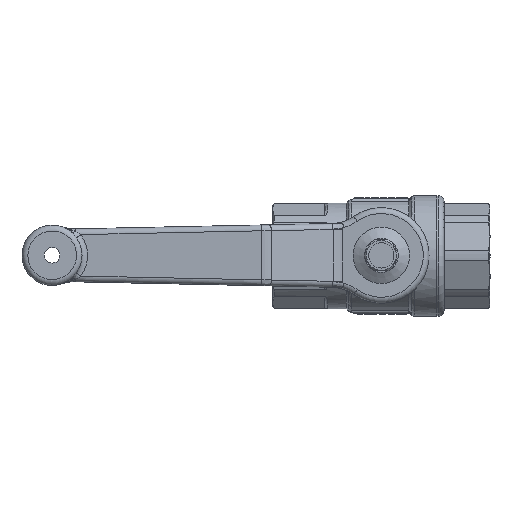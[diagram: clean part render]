
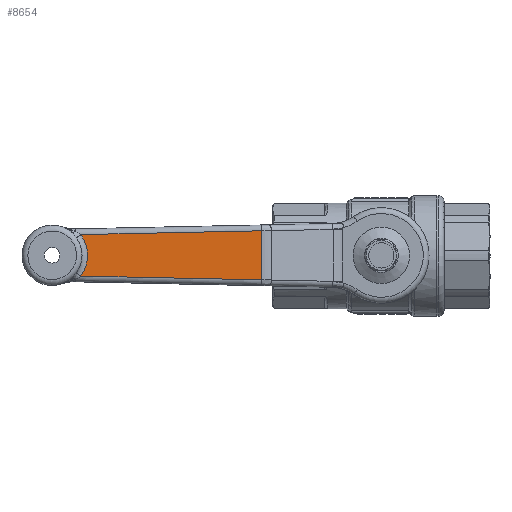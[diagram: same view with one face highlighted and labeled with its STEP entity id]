
A CAD part, top view. The second image highlights one B-rep face of the part: STEP entity #8654.
In plain terms, the highlighted planar face has unit normal (0, 0, 1).
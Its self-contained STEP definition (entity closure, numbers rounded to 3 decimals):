
#1095=LINE('',#17088,#1662);
#1098=LINE('',#17296,#1665);
#1099=LINE('',#17302,#1666);
#1662=VECTOR('',#11519,12.592);
#1665=VECTOR('',#11550,46.43);
#1666=VECTOR('',#11559,46.43);
#1909=PLANE('',#9446);
#2666=FACE_OUTER_BOUND('',#3309,.T.);
#3309=EDGE_LOOP('',(#7942,#7943,#7944,#7945));
#3650=CIRCLE('',#9435,9.078);
#4450=VERTEX_POINT('',#17059);
#4451=VERTEX_POINT('',#17082);
#4460=VERTEX_POINT('',#17181);
#4462=VERTEX_POINT('',#17193);
#5618=EDGE_CURVE('',#4450,#4451,#1095,.T.);
#5631=EDGE_CURVE('',#4462,#4460,#3650,.T.);
#5643=EDGE_CURVE('',#4460,#4450,#1098,.T.);
#5646=EDGE_CURVE('',#4451,#4462,#1099,.T.);
#7942=ORIENTED_EDGE('',*,*,#5618,.F.);
#7943=ORIENTED_EDGE('',*,*,#5643,.F.);
#7944=ORIENTED_EDGE('',*,*,#5631,.F.);
#7945=ORIENTED_EDGE('',*,*,#5646,.F.);
#8654=ADVANCED_FACE('',(#2666),#1909,.T.);
#9435=AXIS2_PLACEMENT_3D('',#17195,#11534,#11535);
#9446=AXIS2_PLACEMENT_3D('',#17301,#11557,#11558);
#11519=DIRECTION('',(0.,1.,0.));
#11534=DIRECTION('center_axis',(0.,0.,1.));
#11535=DIRECTION('ref_axis',(-0.992,0.128,0.));
#11550=DIRECTION('',(-1.,-0.021,0.));
#11557=DIRECTION('center_axis',(0.,0.,1.));
#11558=DIRECTION('ref_axis',(1.,0.,0.));
#11559=DIRECTION('',(1.,-0.021,0.));
#17059=CARTESIAN_POINT('',(30.726,-6.296,27.5));
#17082=CARTESIAN_POINT('',(30.726,6.296,27.5));
#17088=CARTESIAN_POINT('',(30.726,0.,27.5));
#17181=CARTESIAN_POINT('',(77.147,-5.324,27.5));
#17193=CARTESIAN_POINT('',(77.147,5.324,27.5));
#17195=CARTESIAN_POINT('Origin',(84.5,0.,27.5));
#17296=CARTESIAN_POINT('',(59.824,-5.687,27.5));
#17301=CARTESIAN_POINT('Origin',(38.858,0.,
27.5));
#17302=CARTESIAN_POINT('',(24.005,6.437,27.5));
